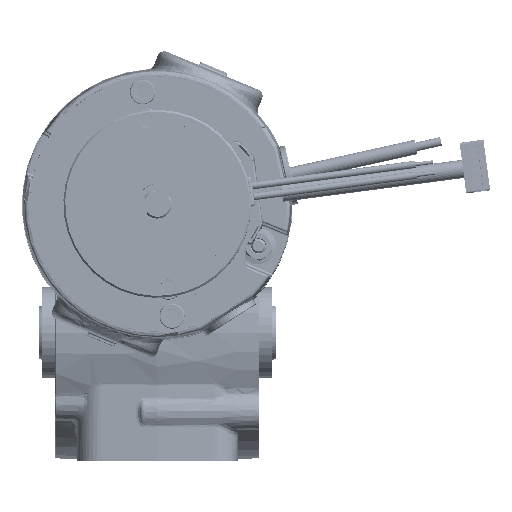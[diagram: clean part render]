
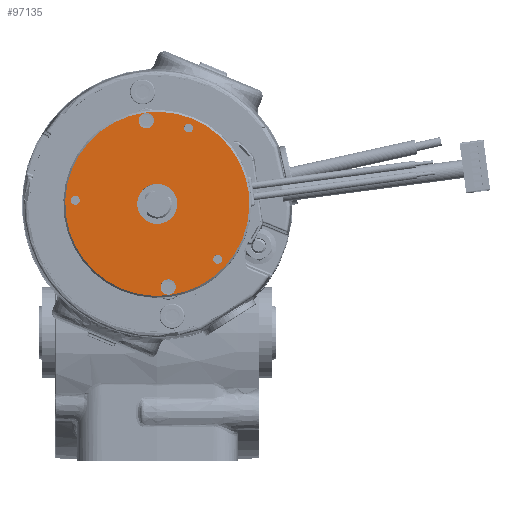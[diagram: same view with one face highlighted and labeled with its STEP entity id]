
A CAD part, top view. The second image highlights one B-rep face of the part: STEP entity #97135.
In plain terms, the highlighted planar face has unit normal (0, 0, 1).
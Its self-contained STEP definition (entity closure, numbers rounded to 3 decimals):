
#2718 = CARTESIAN_POINT ( 'NONE',  ( 1.459, 35.579, 231.098 ) ) ;
#4793 = EDGE_CURVE ( 'NONE', #140769, #51502, #132320, .T. ) ;
#6379 = DIRECTION ( 'NONE',  ( 0., 0., -1. ) ) ;
#12043 = AXIS2_PLACEMENT_3D ( 'NONE', #113807, #177447, #209325 ) ;
#18728 = CIRCLE ( 'NONE', #12043, 1.229 ) ;
#19735 = AXIS2_PLACEMENT_3D ( 'NONE', #226412, #355792, #168950 ) ;
#23194 = CIRCLE ( 'NONE', #308075, 1.23 ) ;
#29079 = DIRECTION ( 'NONE',  ( 0., 0., -1. ) ) ;
#30449 = EDGE_CURVE ( 'NONE', #264083, #136107, #193869, .T. ) ;
#31198 = FACE_BOUND ( 'NONE', #308122, .T. ) ;
#32430 = EDGE_CURVE ( 'NONE', #389151, #274399, #127558, .T. ) ;
#33441 = DIRECTION ( 'NONE',  ( -0.383, -0.924, 0. ) ) ;
#38085 = ORIENTED_EDGE ( 'NONE', *, *, #202371, .T. ) ;
#40049 = AXIS2_PLACEMENT_3D ( 'NONE', #49251, #365590, #76924 ) ;
#40830 = VERTEX_POINT ( 'NONE', #171504 ) ;
#43166 = EDGE_LOOP ( 'NONE', ( #120081, #240101 ) ) ;
#43890 = CARTESIAN_POINT ( 'NONE',  ( 3.16, 9.634, 231.098 ) ) ;
#48598 = CARTESIAN_POINT ( 'NONE',  ( 13.875, 35.503, 231.098 ) ) ;
#49251 = CARTESIAN_POINT ( 'NONE',  ( 5.264, 14.716, 231.098 ) ) ;
#51502 = VERTEX_POINT ( 'NONE', #110226 ) ;
#56475 = DIRECTION ( 'NONE',  ( 0., 0., -1. ) ) ;
#56847 = FACE_OUTER_BOUND ( 'NONE', #335101, .T. ) ;
#57462 = VERTEX_POINT ( 'NONE', #373317 ) ;
#58973 = DIRECTION ( 'NONE',  ( -0.383, -0.924, 0. ) ) ;
#69479 = EDGE_CURVE ( 'NONE', #274399, #389151, #192518, .T. ) ;
#70398 = DIRECTION ( 'NONE',  ( -0.383, -0.924, 0. ) ) ;
#70987 = ORIENTED_EDGE ( 'NONE', *, *, #4793, .T. ) ;
#74777 = VERTEX_POINT ( 'NONE', #398310 ) ;
#76262 = DIRECTION ( 'NONE',  ( 0., 0., -1. ) ) ;
#76924 = DIRECTION ( 'NONE',  ( -0.383, -0.924, 0. ) ) ;
#77626 = AXIS2_PLACEMENT_3D ( 'NONE', #361218, #293312, #70398 ) ;
#78356 = DIRECTION ( 'NONE',  ( -0.383, -0.924, 0. ) ) ;
#79330 = VERTEX_POINT ( 'NONE', #220550 ) ;
#84037 = ORIENTED_EDGE ( 'NONE', *, *, #334948, .T. ) ;
#90830 = DIRECTION ( 'NONE',  ( -0.383, -0.924, 0. ) ) ;
#92269 = CIRCLE ( 'NONE', #417677, 5.5 ) ;
#92619 = CARTESIAN_POINT ( 'NONE',  ( -17.214, 15.697, 231.098 ) ) ;
#96608 = DIRECTION ( 'NONE',  ( -0.383, -0.924, 0. ) ) ;
#97135 = ADVANCED_FACE ( 'NONE', ( #256365, #31198, #220320, #322040, #160845, #158765, #56847 ), #128946, .F. ) ;
#99984 = EDGE_CURVE ( 'NONE', #231246, #173687, #192971, .T. ) ;
#100408 = CARTESIAN_POINT ( 'NONE',  ( 3.066, 39.459, 231.098 ) ) ;
#102511 = EDGE_LOOP ( 'NONE', ( #70987, #200247 ) ) ;
#104440 = AXIS2_PLACEMENT_3D ( 'NONE', #385237, #257969, #96608 ) ;
#110226 = CARTESIAN_POINT ( 'NONE',  ( 7.369, 19.797, 231.098 ) ) ;
#113807 = CARTESIAN_POINT ( 'NONE',  ( -17.214, 15.697, 231.098 ) ) ;
#120081 = ORIENTED_EDGE ( 'NONE', *, *, #285129, .T. ) ;
#120602 = AXIS2_PLACEMENT_3D ( 'NONE', #340548, #270558, #368179 ) ;
#127558 = CIRCLE ( 'NONE', #120602, 1.23 ) ;
#128946 = PLANE ( 'NONE',  #414673 ) ;
#132320 = CIRCLE ( 'NONE', #328868, 5.5 ) ;
#136107 = VERTEX_POINT ( 'NONE', #354827 ) ;
#139337 = DIRECTION ( 'NONE',  ( 0., 0., -1. ) ) ;
#140769 = VERTEX_POINT ( 'NONE', #43890 ) ;
#150647 = EDGE_LOOP ( 'NONE', ( #38085, #84037 ) ) ;
#152506 = CARTESIAN_POINT ( 'NONE',  ( 3.16, 9.634, 231.098 ) ) ;
#158765 = FACE_BOUND ( 'NONE', #102511, .T. ) ;
#160845 = FACE_BOUND ( 'NONE', #375867, .T. ) ;
#165078 = DIRECTION ( 'NONE',  ( 0., 0., -1. ) ) ;
#166463 = ORIENTED_EDGE ( 'NONE', *, *, #320180, .T. ) ;
#168950 = DIRECTION ( 'NONE',  ( -0.383, -0.924, 0. ) ) ;
#171504 = CARTESIAN_POINT ( 'NONE',  ( -16.744, 16.833, 231.098 ) ) ;
#173687 = VERTEX_POINT ( 'NONE', #2718 ) ;
#175581 = CIRCLE ( 'NONE', #40049, 25.25 ) ;
#177447 = DIRECTION ( 'NONE',  ( 0., 0., -1. ) ) ;
#192518 = CIRCLE ( 'NONE', #104440, 1.23 ) ;
#192971 = CIRCLE ( 'NONE', #77626, 2.1 ) ;
#193869 = CIRCLE ( 'NONE', #343340, 2.1 ) ;
#194634 = DIRECTION ( 'NONE',  ( 0., 0., -1. ) ) ;
#196573 = ORIENTED_EDGE ( 'NONE', *, *, #30449, .T. ) ;
#198527 = CARTESIAN_POINT ( 'NONE',  ( 13.404, 34.367, 231.098 ) ) ;
#200247 = ORIENTED_EDGE ( 'NONE', *, *, #296637, .T. ) ;
#202371 = EDGE_CURVE ( 'NONE', #74777, #40830, #18728, .T. ) ;
#205939 = CARTESIAN_POINT ( 'NONE',  ( 13.875, 35.503, 231.098 ) ) ;
#208047 = VERTEX_POINT ( 'NONE', #198527 ) ;
#209325 = DIRECTION ( 'NONE',  ( -0.383, -0.924, 0. ) ) ;
#214458 = CARTESIAN_POINT ( 'NONE',  ( 21.383, -1.621, 231.098 ) ) ;
#220320 = FACE_BOUND ( 'NONE', #420302, .T. ) ;
#220550 = CARTESIAN_POINT ( 'NONE',  ( 14.927, 38.044, 231.098 ) ) ;
#226412 = CARTESIAN_POINT ( 'NONE',  ( 5.264, 14.716, 231.098 ) ) ;
#231246 = VERTEX_POINT ( 'NONE', #100408 ) ;
#236272 = ORIENTED_EDGE ( 'NONE', *, *, #395113, .T. ) ;
#240101 = ORIENTED_EDGE ( 'NONE', *, *, #99984, .T. ) ;
#240184 = VERTEX_POINT ( 'NONE', #242037 ) ;
#242037 = CARTESIAN_POINT ( 'NONE',  ( -4.398, -8.612, 231.098 ) ) ;
#251572 = ORIENTED_EDGE ( 'NONE', *, *, #32430, .T. ) ;
#254126 = AXIS2_PLACEMENT_3D ( 'NONE', #92619, #351604, #349488 ) ;
#256365 = FACE_BOUND ( 'NONE', #43166, .T. ) ;
#257722 = DIRECTION ( 'NONE',  ( -0.383, -0.924, 0. ) ) ;
#257969 = DIRECTION ( 'NONE',  ( 0., 0., -1. ) ) ;
#259481 = CARTESIAN_POINT ( 'NONE',  ( 22.324, 0.651, 231.098 ) ) ;
#261054 = CIRCLE ( 'NONE', #254126, 1.229 ) ;
#264083 = VERTEX_POINT ( 'NONE', #383623 ) ;
#265425 = DIRECTION ( 'NONE',  ( -0.383, -0.924, 0. ) ) ;
#270558 = DIRECTION ( 'NONE',  ( 0., 0., -1. ) ) ;
#274399 = VERTEX_POINT ( 'NONE', #259481 ) ;
#276575 = ORIENTED_EDGE ( 'NONE', *, *, #324647, .T. ) ;
#283750 = CIRCLE ( 'NONE', #419196, 1.23 ) ;
#285129 = EDGE_CURVE ( 'NONE', #173687, #231246, #345461, .T. ) ;
#293312 = DIRECTION ( 'NONE',  ( 0., 0., -1. ) ) ;
#296637 = EDGE_CURVE ( 'NONE', #51502, #140769, #92269, .T. ) ;
#304709 = CARTESIAN_POINT ( 'NONE',  ( 2.262, 37.519, 231.098 ) ) ;
#304771 = AXIS2_PLACEMENT_3D ( 'NONE', #304709, #139337, #364239 ) ;
#308075 = AXIS2_PLACEMENT_3D ( 'NONE', #48598, #76262, #78356 ) ;
#308122 = EDGE_LOOP ( 'NONE', ( #374257, #196573 ) ) ;
#320099 = CARTESIAN_POINT ( 'NONE',  ( 8.266, -8.088, 231.098 ) ) ;
#320180 = EDGE_CURVE ( 'NONE', #57462, #208047, #23194, .T. ) ;
#322027 = EDGE_CURVE ( 'NONE', #136107, #264083, #356542, .T. ) ;
#322040 = FACE_BOUND ( 'NONE', #150647, .T. ) ;
#324324 = EDGE_CURVE ( 'NONE', #208047, #57462, #283750, .T. ) ;
#324647 = EDGE_CURVE ( 'NONE', #79330, #240184, #378870, .T. ) ;
#328868 = AXIS2_PLACEMENT_3D ( 'NONE', #357403, #389152, #257722 ) ;
#334948 = EDGE_CURVE ( 'NONE', #40830, #74777, #261054, .T. ) ;
#335101 = EDGE_LOOP ( 'NONE', ( #236272, #276575 ) ) ;
#340548 = CARTESIAN_POINT ( 'NONE',  ( 21.853, -0.485, 231.098 ) ) ;
#343340 = AXIS2_PLACEMENT_3D ( 'NONE', #381505, #29079, #90830 ) ;
#345461 = CIRCLE ( 'NONE', #304771, 2.1 ) ;
#349488 = DIRECTION ( 'NONE',  ( -0.383, -0.924, 0. ) ) ;
#351604 = DIRECTION ( 'NONE',  ( 0., 0., -1. ) ) ;
#354827 = CARTESIAN_POINT ( 'NONE',  ( 7.463, -10.028, 231.098 ) ) ;
#355792 = DIRECTION ( 'NONE',  ( 0., 0., 1. ) ) ;
#356542 = CIRCLE ( 'NONE', #404123, 2.1 ) ;
#357403 = CARTESIAN_POINT ( 'NONE',  ( 5.264, 14.716, 231.098 ) ) ;
#360445 = ORIENTED_EDGE ( 'NONE', *, *, #324324, .T. ) ;
#361218 = CARTESIAN_POINT ( 'NONE',  ( 2.262, 37.519, 231.098 ) ) ;
#364239 = DIRECTION ( 'NONE',  ( -0.383, -0.924, 0. ) ) ;
#365590 = DIRECTION ( 'NONE',  ( 0., 0., 1. ) ) ;
#368179 = DIRECTION ( 'NONE',  ( -0.383, -0.924, 0. ) ) ;
#373317 = CARTESIAN_POINT ( 'NONE',  ( 14.345, 36.639, 231.098 ) ) ;
#374257 = ORIENTED_EDGE ( 'NONE', *, *, #322027, .T. ) ;
#375867 = EDGE_LOOP ( 'NONE', ( #360445, #166463 ) ) ;
#378870 = CIRCLE ( 'NONE', #19735, 25.25 ) ;
#381505 = CARTESIAN_POINT ( 'NONE',  ( 8.266, -8.088, 231.098 ) ) ;
#383623 = CARTESIAN_POINT ( 'NONE',  ( 9.07, -6.148, 231.098 ) ) ;
#385237 = CARTESIAN_POINT ( 'NONE',  ( 21.853, -0.485, 231.098 ) ) ;
#387649 = ORIENTED_EDGE ( 'NONE', *, *, #69479, .T. ) ;
#389151 = VERTEX_POINT ( 'NONE', #214458 ) ;
#389152 = DIRECTION ( 'NONE',  ( 0., 0., -1. ) ) ;
#395113 = EDGE_CURVE ( 'NONE', #240184, #79330, #175581, .T. ) ;
#398310 = CARTESIAN_POINT ( 'NONE',  ( -17.685, 14.561, 231.098 ) ) ;
#404123 = AXIS2_PLACEMENT_3D ( 'NONE', #320099, #165078, #33441 ) ;
#406770 = CARTESIAN_POINT ( 'NONE',  ( 5.264, 14.716, 231.098 ) ) ;
#411000 = DIRECTION ( 'NONE',  ( -0.383, -0.924, 0. ) ) ;
#414673 = AXIS2_PLACEMENT_3D ( 'NONE', #152506, #194634, #58973 ) ;
#417677 = AXIS2_PLACEMENT_3D ( 'NONE', #406770, #56475, #411000 ) ;
#419196 = AXIS2_PLACEMENT_3D ( 'NONE', #205939, #6379, #265425 ) ;
#420302 = EDGE_LOOP ( 'NONE', ( #251572, #387649 ) ) ;
